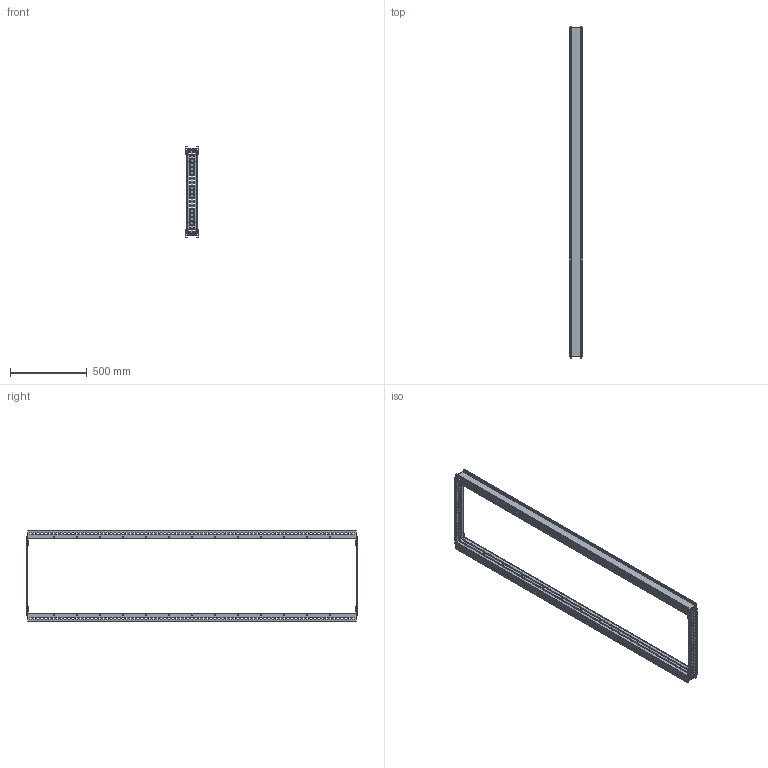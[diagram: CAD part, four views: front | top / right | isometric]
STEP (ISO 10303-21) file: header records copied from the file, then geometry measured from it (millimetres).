
FILE_DESCRIPTION(('STEP AP203'), '1');
FILE_NAME('Ðàçäåëèòåëüíàÿ ñòîéêà øèííîãî îòñåêà 2200õ600 ìì OptiBox M 420050 ÊÝÀÇ', '', ('UNSPECIFIED'), ('UNSPECIFIED'), 'C3D Converter', 'C3D Toolkit', '');
FILE_SCHEMA(('CONFIG_CONTROL_DESIGN'));
Length unit declared in the file: millimetre
Bounding box: 88 x 2157.6 x 592 mm (x, y, z)
Volume: 2759961.9 mm3; surface area: 2888883.3 mm2
Topology: 6 solids, 6 shells, 4324 faces, 12648 edges, 8336 vertices
Faces by surface type: plane 3324, cylinder 1000
Full cylindrical faces by diameter (mm): 4.6 x844, 7.3 x84
Entity records: 144026 total; most frequent: CARTESIAN_POINT 24381, ORIENTED_EDGE 23440, DIRECTION 22370, EDGE_CURVE 11720, LINE 9720, VECTOR 9720, EDGE_LOOP 8636, VERTEX_POINT 8336
